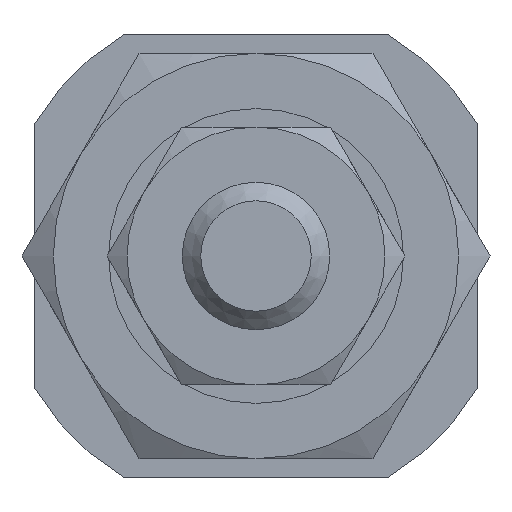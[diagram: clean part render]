
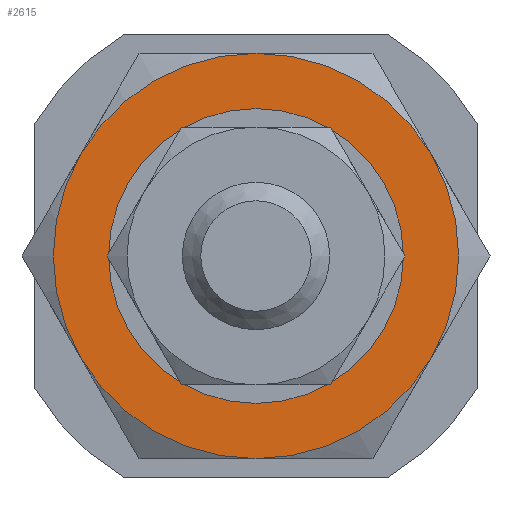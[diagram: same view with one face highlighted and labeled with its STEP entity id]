
A CAD part, left-side view. The second image highlights one B-rep face of the part: STEP entity #2615.
In plain terms, the highlighted planar face has unit normal (-1, 0, 0).
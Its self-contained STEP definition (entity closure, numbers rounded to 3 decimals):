
#844=CARTESIAN_POINT('',(-35.899,4.763,-2.75));
#845=VERTEX_POINT('',#844);
#861=CARTESIAN_POINT('',(-35.899,4.763,2.75));
#862=VERTEX_POINT('',#861);
#863=CARTESIAN_POINT('',(-35.899,0.,0.0));
#864=DIRECTION('',(-1.0,0.0,0.0));
#865=DIRECTION('',(0.0,-1.0,0.0));
#866=AXIS2_PLACEMENT_3D('',#863,#864,#865);
#867=CIRCLE('',#866,5.5);
#868=EDGE_CURVE('',#862,#845,#867,.T.);
#893=CARTESIAN_POINT('',(-35.899,0.,5.5));
#894=VERTEX_POINT('',#893);
#921=CARTESIAN_POINT('',(-35.899,0.,0.0));
#922=DIRECTION('',(-1.0,0.0,0.0));
#923=DIRECTION('',(0.0,-1.0,0.0));
#924=AXIS2_PLACEMENT_3D('',#921,#922,#923);
#925=CIRCLE('',#924,5.5);
#926=EDGE_CURVE('',#894,#862,#925,.T.);
#936=CARTESIAN_POINT('',(-35.899,0.,-5.5));
#937=VERTEX_POINT('',#936);
#953=CARTESIAN_POINT('',(-35.899,0.,0.0));
#954=DIRECTION('',(-1.0,0.0,0.0));
#955=DIRECTION('',(0.0,-1.0,0.0));
#956=AXIS2_PLACEMENT_3D('',#953,#954,#955);
#957=CIRCLE('',#956,5.5);
#958=EDGE_CURVE('',#845,#937,#957,.T.);
#983=CARTESIAN_POINT('',(-35.899,-4.763,2.75));
#984=VERTEX_POINT('',#983);
#1011=CARTESIAN_POINT('',(-35.899,0.,0.0));
#1012=DIRECTION('',(-1.0,0.0,0.0));
#1013=DIRECTION('',(0.0,-1.0,0.0));
#1014=AXIS2_PLACEMENT_3D('',#1011,#1012,#1013);
#1015=CIRCLE('',#1014,5.5);
#1016=EDGE_CURVE('',#984,#894,#1015,.T.);
#1026=CARTESIAN_POINT('',(-35.899,-4.763,-2.75));
#1027=VERTEX_POINT('',#1026);
#1043=CARTESIAN_POINT('',(-35.899,0.,0.0));
#1044=DIRECTION('',(-1.0,0.0,0.0));
#1045=DIRECTION('',(0.0,-1.0,0.0));
#1046=AXIS2_PLACEMENT_3D('',#1043,#1044,#1045);
#1047=CIRCLE('',#1046,5.5);
#1048=EDGE_CURVE('',#937,#1027,#1047,.T.);
#1086=CARTESIAN_POINT('',(-35.899,0.,0.0));
#1087=DIRECTION('',(-1.0,0.0,0.0));
#1088=DIRECTION('',(0.0,-1.0,0.0));
#1089=AXIS2_PLACEMENT_3D('',#1086,#1087,#1088);
#1090=CIRCLE('',#1089,5.5);
#1091=EDGE_CURVE('',#1027,#984,#1090,.T.);
#2591=CARTESIAN_POINT('',(-35.899,5.75,0.0));
#2592=DIRECTION('',(-1.0,0.0,0.0));
#2593=DIRECTION('',(0.0,0.0,1.0));
#2594=AXIS2_PLACEMENT_3D('',#2591,#2592,#2593);
#2595=PLANE('',#2594);
#2596=ORIENTED_EDGE('',*,*,#868,.T.);
#2597=ORIENTED_EDGE('',*,*,#958,.T.);
#2598=ORIENTED_EDGE('',*,*,#1048,.T.);
#2599=ORIENTED_EDGE('',*,*,#1091,.T.);
#2600=ORIENTED_EDGE('',*,*,#1016,.T.);
#2601=ORIENTED_EDGE('',*,*,#926,.T.);
#2602=EDGE_LOOP('',(#2596,#2597,#2598,#2599,#2600,#2601));
#2603=FACE_OUTER_BOUND('',#2602,.T.);
#2604=CARTESIAN_POINT('',(-35.899,4.,0.0));
#2605=VERTEX_POINT('',#2604);
#2606=CARTESIAN_POINT('',(-35.899,0.,0.0));
#2607=DIRECTION('',(-1.0,0.0,0.0));
#2608=DIRECTION('',(0.0,1.0,0.0));
#2609=AXIS2_PLACEMENT_3D('',#2606,#2607,#2608);
#2610=CIRCLE('',#2609,4.);
#2611=EDGE_CURVE('',#2605,#2605,#2610,.T.);
#2612=ORIENTED_EDGE('',*,*,#2611,.F.);
#2613=EDGE_LOOP('',(#2612));
#2614=FACE_BOUND('',#2613,.T.);
#2615=ADVANCED_FACE('',(#2603,#2614),#2595,.T.);
